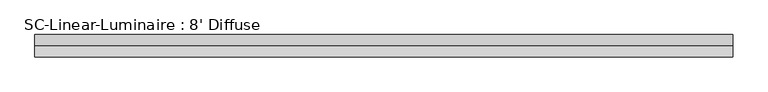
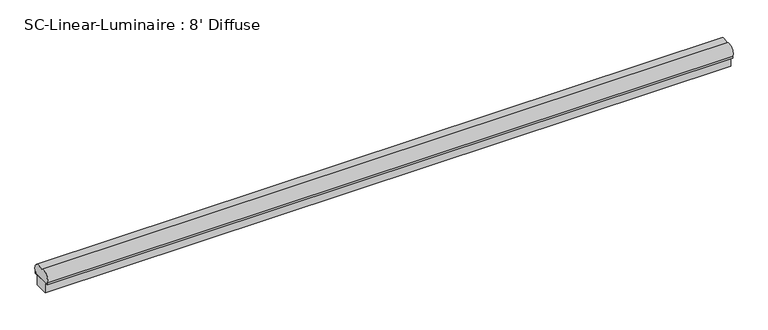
"""IFC4 building model written with IfcOpenShell, lengths in millimetres: light fixture geometry, SC-Linear-Luminaire : 8' Diffuse."""

from ifc_helpers import new_model, si_unit, point, frame, frame_2d, origin, place, context, project, spatial, polyline, circle_curve, trimmed, segment, composite_curve, outline, extrude, source, transform, mapped, element, save


def sc_linear_luminaire_8_diffuse_547f4cf2(model_context):
    return source(origin(), model_context, "Body", "SweptSolid", [
        extrude(outline(composite_curve([segment(polyline([(-29.845, 66.5757209), (-32.8454104, 66.5757209)]), True, "CONTINUOUS"), segment(trimmed(circle_curve(frame_2d((-14.3558875, 77.5765226)), 21.5146484), [point((-32.8454104, 66.5757209))], [point((0.0, 93.601147))], False, "CARTESIAN"), True, "CONTINUOUS"), segment(trimmed(circle_curve(frame_2d((14.3558875, 77.5765226)), 21.5146484), [point((0.0, 93.601147))], [point((32.8454104, 66.5757209))], False, "CARTESIAN"), True, "CONTINUOUS"), segment(polyline([(32.8454104, 66.5757209), (29.845, 66.5757209), (29.845, 62.6426128), (-29.845, 62.6426128), (-29.845, 66.5757209)]), True, "CONTINUOUS")], self_intersect=False)), frame((-1117.6, 0.0, 0.0), z_axis=(1.0, 0.0, 0.0), x_axis=(0.0, 1.0, 0.0)), (0.0, 0.0, 1.0), 2235.2),
        extrude(outline(polyline([(33.02, 66.5757209), (33.02, 60.325), (22.225, 60.325), (22.225, 26.45), (-22.225, 26.45), (-22.225, 60.325), (-33.02, 60.325), (-33.02, 66.5757209), (-29.845, 66.5757209), (-29.845, 62.6426128), (29.845, 62.6426128), (29.845, 66.5757209), (33.02, 66.5757209)])), frame((-1117.6, 0.0, 0.0), z_axis=(1.0, 0.0, 0.0), x_axis=(0.0, 1.0, 0.0)), (0.0, 0.0, 1.0), 2235.2),
    ])


if __name__ == "__main__":
    model = new_model("IFC4")
    model_context = context("Model", 3, world=origin())
    ifc_project = project(units=[si_unit("LENGTHUNIT", "METRE", prefix="MILLI")], contexts=[model_context])
    site = spatial("IfcSite", under=ifc_project)
    building = spatial("IfcBuilding", under=site)
    placement = place(None, origin())
    sc_linear_luminaire_8_diffuse_shape = sc_linear_luminaire_8_diffuse_547f4cf2(model_context)
    element("IfcLightFixture", 1, ObjectType="SC-Linear-Luminaire : 8' Diffuse", at=placement, inside=building, context=model_context, shape_type="MappedRepresentation", body=[
        mapped(sc_linear_luminaire_8_diffuse_shape, transform((0.0, 0.0, 0.0), x_axis=(1.0, 0.0, 0.0), y_axis=(0.0, 1.0, 0.0), z_axis=(0.0, 0.0, 1.0))),
    ])
    save(model, "model.ifc")
